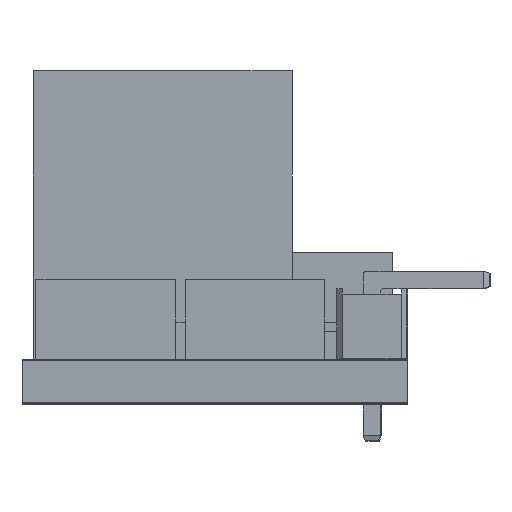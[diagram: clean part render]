
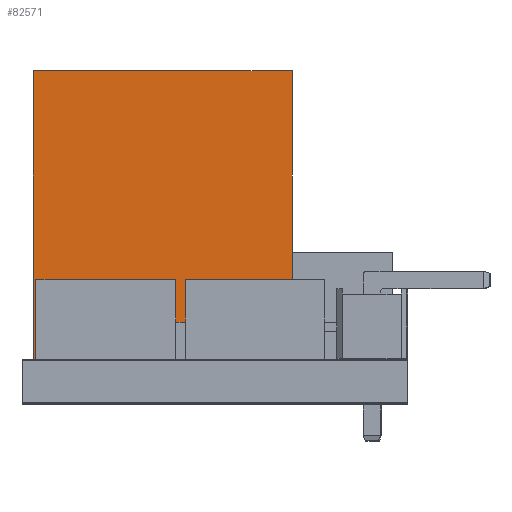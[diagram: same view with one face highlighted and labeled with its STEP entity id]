
A CAD part, left-side view. The second image highlights one B-rep face of the part: STEP entity #82571.
In plain terms, the highlighted face is a extrusion surface.
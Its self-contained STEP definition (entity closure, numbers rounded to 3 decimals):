
#82534 = VERTEX_POINT('',#82535);
#82535 = CARTESIAN_POINT('',(24.562,2.921,10.5));
#82552 = VERTEX_POINT('',#82553);
#82553 = CARTESIAN_POINT('',(24.562,12.344,10.5));
#82559 = EDGE_CURVE('',#82552,#82534,#82560,.T.);
#82560 = LINE('',#82561,#82562);
#82561 = CARTESIAN_POINT('',(24.562,12.344,10.5));
#82562 = VECTOR('',#82563,1.);
#82563 = DIRECTION('',(0.,-1.,0.));
#82571 = ADVANCED_FACE('',(#82572),#82597,.T.);
#82572 = FACE_BOUND('',#82573,.T.);
#82573 = EDGE_LOOP('',(#82574,#82575,#82583,#82591));
#82574 = ORIENTED_EDGE('',*,*,#82559,.F.);
#82575 = ORIENTED_EDGE('',*,*,#82576,.T.);
#82576 = EDGE_CURVE('',#82552,#82577,#82579,.T.);
#82577 = VERTEX_POINT('',#82578);
#82578 = CARTESIAN_POINT('',(24.562,12.344,0.));
#82579 = LINE('',#82580,#82581);
#82580 = CARTESIAN_POINT('',(24.562,12.344,10.5));
#82581 = VECTOR('',#82582,1.);
#82582 = DIRECTION('',(0.,0.,-1.));
#82583 = ORIENTED_EDGE('',*,*,#82584,.F.);
#82584 = EDGE_CURVE('',#82585,#82577,#82587,.T.);
#82585 = VERTEX_POINT('',#82586);
#82586 = CARTESIAN_POINT('',(24.562,2.921,0.));
#82587 = LINE('',#82588,#82589);
#82588 = CARTESIAN_POINT('',(24.562,2.921,0.));
#82589 = VECTOR('',#82590,1.);
#82590 = DIRECTION('',(0.,1.,0.));
#82591 = ORIENTED_EDGE('',*,*,#82592,.T.);
#82592 = EDGE_CURVE('',#82585,#82534,#82593,.T.);
#82593 = LINE('',#82594,#82595);
#82594 = CARTESIAN_POINT('',(24.562,2.921,0.));
#82595 = VECTOR('',#82596,1.);
#82596 = DIRECTION('',(0.,0.,1.));
#82597 = SURFACE_OF_LINEAR_EXTRUSION('',#82598,#82602);
#82598 = LINE('',#82599,#82600);
#82599 = CARTESIAN_POINT('',(24.562,2.921,0.));
#82600 = VECTOR('',#82601,1.);
#82601 = DIRECTION('',(0.,0.,1.));
#82602 = VECTOR('',#82603,1.);
#82603 = DIRECTION('',(0.,1.,0.));
